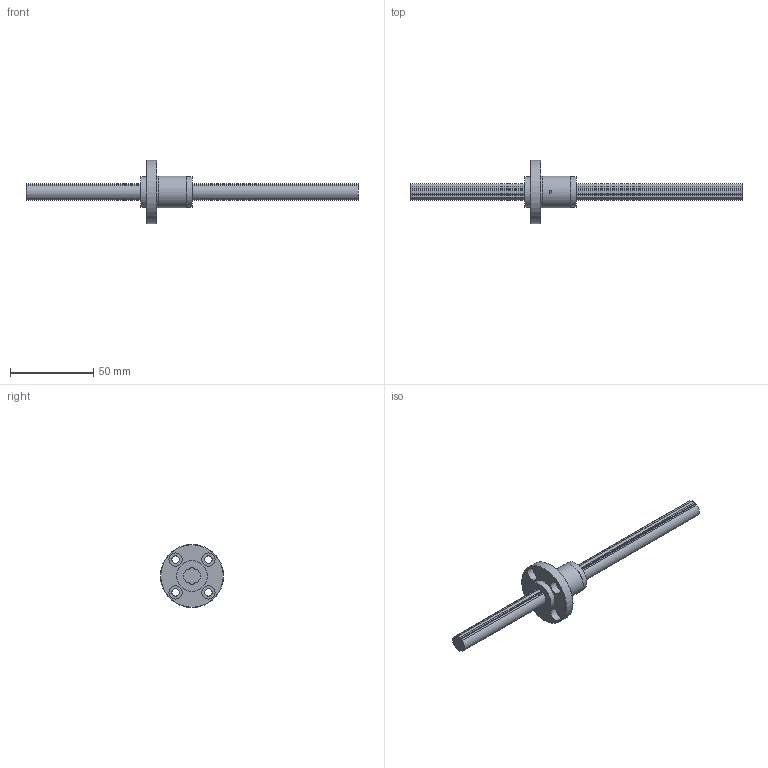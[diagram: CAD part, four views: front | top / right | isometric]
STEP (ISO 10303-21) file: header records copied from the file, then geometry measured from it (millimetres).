
FILE_DESCRIPTION(/* description */ ('STEP AP214'),/* implementation_level */ '2;1');
FILE_NAME(/* name */ 'LF10X+200L(00)',/* time_stamp */ '2024-09-05T14:46:01+02:00',/* author */ ('License CC BY-ND 4.0'),/* organization */ ('CADENAS'),/* preprocessor_version */ 'ST-DEVELOPER v19.3',/* originating_system */ 'PARTsolutions',/* authorisation */ ' ');
FILE_SCHEMA (('AUTOMOTIVE_DESIGN {1 0 10303 214 3 1 1}'));
Length unit declared in the file: millimetre
Products named in the file (3): LF10X+200L(00); 1LT10X 200Shaft; 1LF10X Cylindar
Assembly tree (2 placements, depth 2):
  LF10X+200L(00)
    1LT10X 200Shaft
    1LF10X Cylindar
Bounding box: 200 x 38 x 38 mm (x, y, z)
Volume: 25451.2 mm3; surface area: 12376.6 mm2
Topology: 2 solids, 2 shells, 77 faces, 196 edges, 129 vertices
Faces by surface type: cylinder 47, plane 27, cone 3
Full cylindrical faces by diameter (mm): 1.5 x2, 4.5 x4, 8 x4, 18.6 x2, 18.8 x1, 19 x1, 38 x1
Entity records: 2393 total; most frequent: DIRECTION 424, CARTESIAN_POINT 424, ORIENTED_EDGE 352, EDGE_CURVE 176, AXIS2_PLACEMENT_3D 172, VERTEX_POINT 128, EDGE_LOOP 116, FACE_BOUND 116
